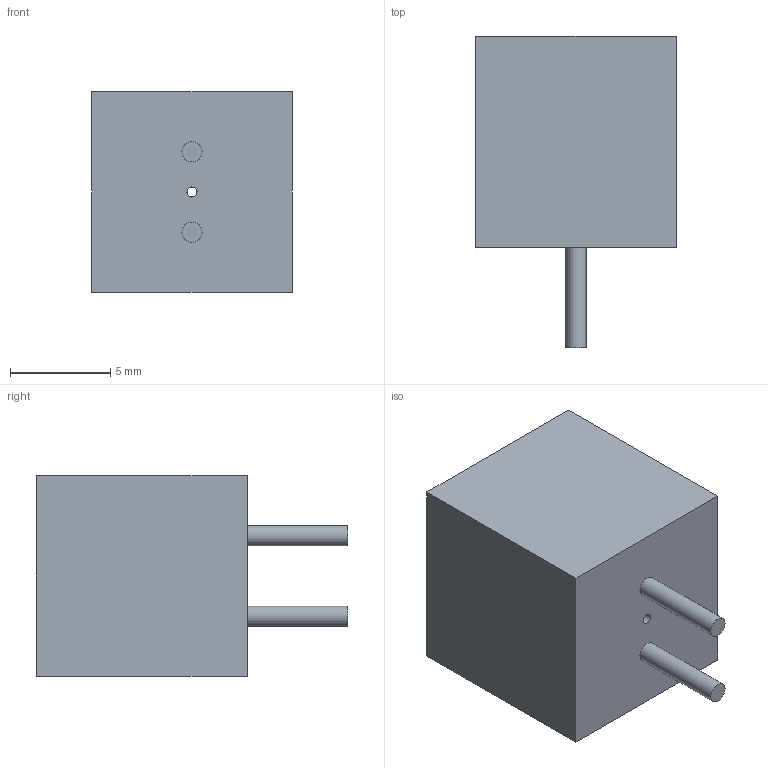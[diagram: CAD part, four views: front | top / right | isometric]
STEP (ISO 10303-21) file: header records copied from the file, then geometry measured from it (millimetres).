
FILE_DESCRIPTION(/* description */ (''),/* implementation_level */ '2;1');
FILE_NAME(/* name */ '/Users/lorenasaitta/Desktop/_Supp_Fibra_400micron_rev01 v1.step',/* time_stamp */ '2021-01-12T14:00:00+01:00',/* author */ (''),/* organization */ (''),/* preprocessor_version */ 'ST-DEVELOPER v18.1',/* originating_system */ 'Autodesk Translation Framework v9.7.0.1280',/* authorisation */ '');
FILE_SCHEMA (('AUTOMOTIVE_DESIGN { 1 0 10303 214 3 1 1 }'));
Length unit declared in the file: millimetre
Products named in the file (1): _Supp_Fibra_400micron_rev01
Bounding box: 10 x 15.5 x 10 mm (x, y, z)
Volume: 1055.8 mm3; surface area: 667.5 mm2
Topology: 1 solids, 1 shells, 11 faces, 21 edges, 14 vertices
Faces by surface type: plane 8, cylinder 3
Full cylindrical faces by diameter (mm): 0.5 x1, 1 x2
Entity records: 318 total; most frequent: DIRECTION 51, CARTESIAN_POINT 47, ORIENTED_EDGE 42, EDGE_CURVE 21, AXIS2_PLACEMENT_3D 18, EDGE_LOOP 15, LINE 15, VECTOR 15
